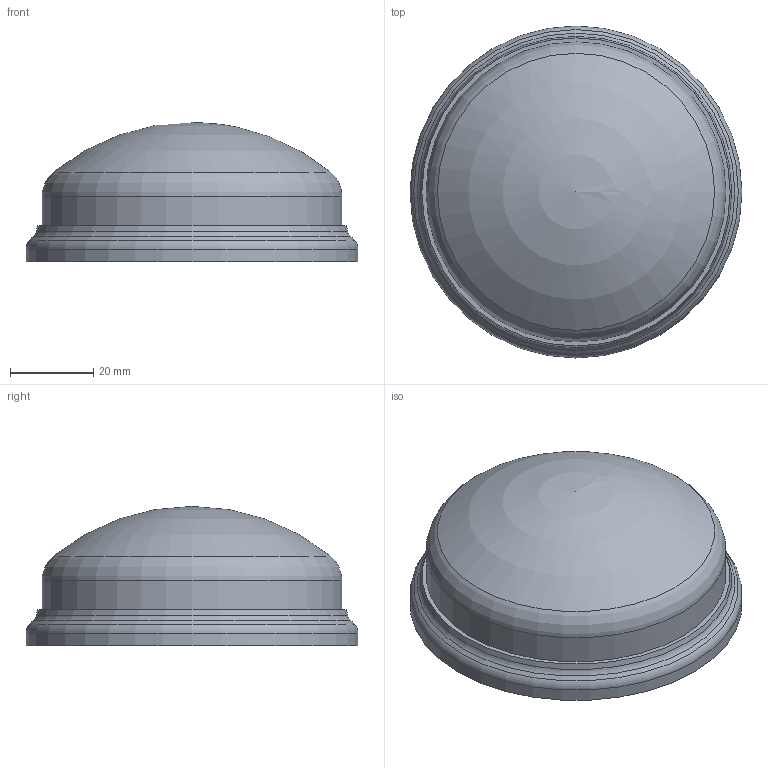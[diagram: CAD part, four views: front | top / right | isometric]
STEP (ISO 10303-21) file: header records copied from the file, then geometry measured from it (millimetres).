
FILE_DESCRIPTION(/* description */ ('Unknown'),/* implementation_level */ '2;1');
FILE_NAME(/* name */ '022-K01-07',/* time_stamp */ '2023-10-04T08:24:35+02:00',/* author */ ('Unknown'),/* organization */ ('Unknown'),/* preprocessor_version */ 'ST-DEVELOPER v16.7',/* originating_system */ 'Solid Edge',/* authorisation */ 'Unknown');
FILE_SCHEMA (('AUTOMOTIVE_DESIGN {1 0 10303 214 3 1 1}'));
Length unit declared in the file: millimetre
Products named in the file (1): 022-K01-07
Bounding box: 79.7 x 79.7 x 33.4 mm (x, y, z)
Volume: 12338.9 mm3; surface area: 18735.5 mm2
Topology: 1 solids, 1 shells, 40 faces, 97 edges, 61 vertices
Faces by surface type: plane 19, cylinder 9, cone 6, torus 4, sphere 2
Full cylindrical faces by diameter (mm): 69.7 x1, 72 x1, 77.7 x1, 79.7 x1
Entity records: 1096 total; most frequent: DIRECTION 198, CARTESIAN_POINT 177, ORIENTED_EDGE 156, AXIS2_PLACEMENT_3D 79, EDGE_CURVE 78, VERTEX_POINT 58, EDGE_LOOP 58, FACE_BOUND 58
